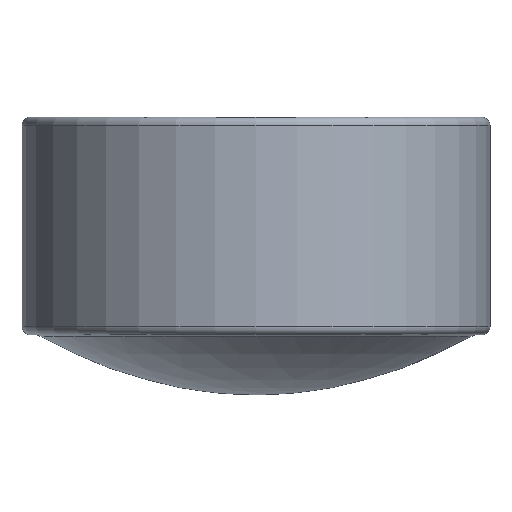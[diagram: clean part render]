
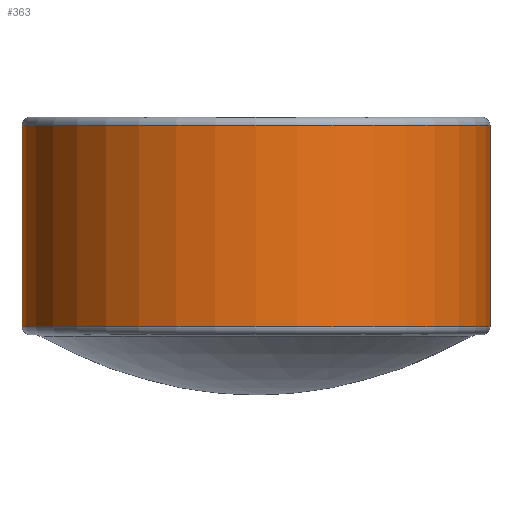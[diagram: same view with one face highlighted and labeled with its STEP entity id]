
A CAD part, front view. The second image highlights one B-rep face of the part: STEP entity #363.
In plain terms, the highlighted cylindrical face has radius 1.5 mm (diameter 3 mm), a partial arc.
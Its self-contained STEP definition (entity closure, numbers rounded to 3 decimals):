
#34=CARTESIAN_POINT('',(0.,0.,0.435));
#35=DIRECTION('',(0.,0.,-1.));
#36=DIRECTION('',(1.,0.,0.));
#37=AXIS2_PLACEMENT_3D('',#34,#35,#36);
#39=DIRECTION('',(0.,0.,-1.));
#40=VECTOR('',#39,1.294);
#41=CARTESIAN_POINT('',(-1.5,0.,1.729));
#42=LINE('',#41,#40);
#43=CARTESIAN_POINT('',(0.,0.,1.729));
#44=DIRECTION('',(0.,0.,-1.));
#45=DIRECTION('',(1.,0.,0.));
#46=AXIS2_PLACEMENT_3D('',#43,#44,#45);
#48=DIRECTION('',(0.,0.,-1.));
#49=VECTOR('',#48,1.294);
#50=CARTESIAN_POINT('',(1.5,0.,1.729));
#51=LINE('',#50,#49);
#270=CARTESIAN_POINT('',(1.5,0.,0.435));
#271=CARTESIAN_POINT('',(-1.5,0.,0.435));
#272=VERTEX_POINT('',#270);
#273=VERTEX_POINT('',#271);
#274=CARTESIAN_POINT('',(1.5,0.,1.729));
#275=CARTESIAN_POINT('',(-1.5,0.,1.729));
#276=VERTEX_POINT('',#274);
#277=VERTEX_POINT('',#275);
#349=CARTESIAN_POINT('',(0.,0.,-0.089));
#350=DIRECTION('',(0.,0.,1.));
#351=DIRECTION('',(-1.,0.,0.));
#352=AXIS2_PLACEMENT_3D('',#349,#350,#351);
#353=CYLINDRICAL_SURFACE('',#352,1.5);
#355=ORIENTED_EDGE('',*,*,#354,.T.);
#357=ORIENTED_EDGE('',*,*,#356,.F.);
#358=ORIENTED_EDGE('',*,*,#339,.F.);
#360=ORIENTED_EDGE('',*,*,#359,.T.);
#361=EDGE_LOOP('',(#355,#357,#358,#360));
#362=FACE_OUTER_BOUND('',#361,.F.);
#363=ADVANCED_FACE('',(#362),#353,.T.);
#38=CIRCLE('',#37,1.5);
#47=CIRCLE('',#46,1.5);
#339=EDGE_CURVE('',#276,#277,#47,.T.);
#354=EDGE_CURVE('',#272,#273,#38,.T.);
#356=EDGE_CURVE('',#277,#273,#42,.T.);
#359=EDGE_CURVE('',#276,#272,#51,.T.);
